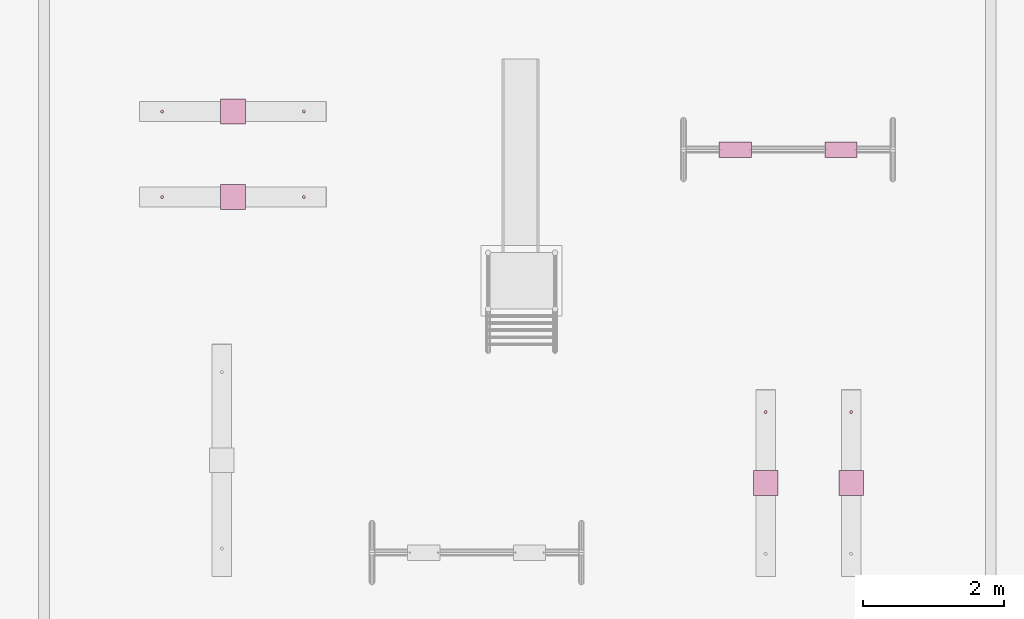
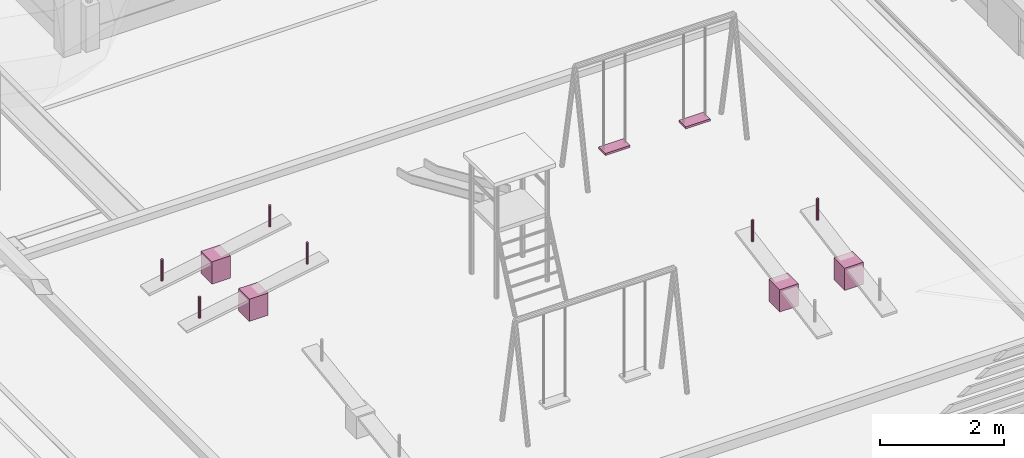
# One storey, part 151 of 177: 12 furnishings.
"""IFC4 building model written with IfcOpenShell, lengths in metres."""

from ifc_helpers import new_model, si_unit, origin, origin_with_axes, place, context, subcontext, project, spatial, triangles, element, save


model = new_model("IFC4")

# Units and contexts
model_context = context("Model", 3, precision=1e-05, world=origin_with_axes())
body_context = subcontext(model_context, "Body", "Model", "MODEL_VIEW")
ifc_project = project(units=[si_unit("LENGTHUNIT", "METRE"), si_unit("AREAUNIT", "SQUARE_METRE"), si_unit("VOLUMEUNIT", "CUBIC_METRE"), si_unit("PLANEANGLEUNIT", "RADIAN")], contexts=[model_context])

# Site, building, storey
site_placement = place(None, origin_with_axes())
site = spatial("IfcSite", under=ifc_project, at=site_placement, Name="Predio Los Mangos - Morales, San Martín", CompositionType="ELEMENT")
building_placement = place(site_placement, origin())
building = spatial("IfcBuilding", under=site, at=building_placement, Name="Hogar de Refugio Temporal", CompositionType="ELEMENT")
storey_placement = place(building_placement, origin())
storey = spatial("IfcBuildingStorey", under=building, at=storey_placement, Name="NIVEL 1 (NPT +0.00)", CompositionType="ELEMENT", Elevation=0.0)

# Furnishings
furnishing_1_placement = place(storey_placement, origin())
element("IfcFurnishingElement", 1, at=furnishing_1_placement, inside=storey, Name="balancin_base", ObjectType="Mobiliario exterior / juegos", context=body_context, shape_type="Tessellation", body=[
    triangles([(38.3022, 80.558, 0.13), (38.6522, 80.558, 0.13), (38.6522, 80.908, 0.13), (38.3022, 80.908, 0.13), (38.3022, 80.558, 0.57), (38.6522, 80.558, 0.57), (38.6522, 80.908, 0.57), (38.3022, 80.908, 0.57)], [[1, 4, 3], [1, 3, 2], [5, 6, 7], [5, 7, 8], [1, 2, 6], [1, 6, 5], [2, 3, 7], [2, 7, 6], [3, 4, 8], [3, 8, 7], [4, 1, 5], [4, 5, 8]]),
])
furnishing_2_placement = place(storey_placement, origin())
element("IfcFurnishingElement", 2, at=furnishing_2_placement, inside=storey, Name="balancin_manija", ObjectType="Mobiliario exterior / juegos", context=body_context, shape_type="Tessellation", body=[
    triangles([(38.4772, 81.718, 0.7524), (38.4772, 81.718, 1.1724), (38.4662, 81.7209, 0.7524), (38.4662, 81.7209, 1.1724), (38.4582, 81.729, 0.7524), (38.4582, 81.729, 1.1724), (38.4552, 81.74, 0.7524), (38.4552, 81.74, 1.1724), (38.4582, 81.751, 0.7524), (38.4582, 81.751, 1.1724), (38.4662, 81.759, 0.7524), (38.4662, 81.759, 1.1724), (38.4772, 81.762, 0.7524), (38.4772, 81.762, 1.1724), (38.4883, 81.759, 0.7524), (38.4883, 81.759, 1.1724), (38.4963, 81.751, 0.7524), (38.4963, 81.751, 1.1724), (38.4992, 81.74, 0.7524), (38.4992, 81.74, 1.1724), (38.4963, 81.729, 0.7524), (38.4963, 81.729, 1.1724), (38.4883, 81.7209, 0.7524), (38.4883, 81.7209, 1.1724)], [[1, 2, 4], [1, 4, 3], [3, 4, 6], [3, 6, 5], [5, 6, 8], [5, 8, 7], [7, 8, 10], [7, 10, 9], [9, 10, 12], [9, 12, 11], [11, 12, 14], [11, 14, 13], [13, 14, 16], [13, 16, 15], [15, 16, 18], [15, 18, 17], [17, 18, 20], [17, 20, 19], [19, 20, 22], [19, 22, 21], [6, 4, 2], [2, 24, 22], [22, 20, 18], [18, 16, 14], [14, 12, 10], [10, 8, 6], [6, 2, 22], [22, 18, 14], [14, 10, 6], [22, 14, 6], [21, 22, 24], [21, 24, 23], [23, 24, 2], [23, 2, 1], [23, 1, 3], [3, 5, 7], [7, 9, 11], [11, 13, 15], [15, 17, 19], [19, 21, 23], [23, 3, 7], [7, 11, 15], [15, 19, 23], [7, 15, 23]]),
])
furnishing_3_placement = place(storey_placement, origin())
element("IfcFurnishingElement", 3, at=furnishing_3_placement, inside=storey, Name="balancin_base", ObjectType="Mobiliario exterior / juegos", context=body_context, shape_type="Tessellation", body=[
    triangles([(39.5168, 80.558, 0.13), (39.8667, 80.558, 0.13), (39.8667, 80.908, 0.13), (39.5168, 80.908, 0.13), (39.5168, 80.558, 0.57), (39.8667, 80.558, 0.57), (39.8667, 80.908, 0.57), (39.5168, 80.908, 0.57)], [[1, 4, 3], [1, 3, 2], [5, 6, 7], [5, 7, 8], [1, 2, 6], [1, 6, 5], [2, 3, 7], [2, 7, 6], [3, 4, 8], [3, 8, 7], [4, 1, 5], [4, 5, 8]]),
])
furnishing_4_placement = place(storey_placement, origin())
element("IfcFurnishingElement", 4, at=furnishing_4_placement, inside=storey, Name="balancin_manija", ObjectType="Mobiliario exterior / juegos", context=body_context, shape_type="Tessellation", body=[
    triangles([(39.6917, 81.718, 0.7524), (39.6917, 81.718, 1.1724), (39.6807, 81.7209, 0.7524), (39.6807, 81.7209, 1.1724), (39.6727, 81.729, 0.7524), (39.6727, 81.729, 1.1724), (39.6698, 81.74, 0.7524), (39.6698, 81.74, 1.1724), (39.6727, 81.751, 0.7524), (39.6727, 81.751, 1.1724), (39.6807, 81.759, 0.7524), (39.6807, 81.759, 1.1724), (39.6917, 81.762, 0.7524), (39.6917, 81.762, 1.1724), (39.7028, 81.759, 0.7524), (39.7028, 81.759, 1.1724), (39.7108, 81.751, 0.7524), (39.7108, 81.751, 1.1724), (39.7137, 81.74, 0.7524), (39.7137, 81.74, 1.1724), (39.7108, 81.729, 0.7524), (39.7108, 81.729, 1.1724), (39.7028, 81.7209, 0.7524), (39.7028, 81.7209, 1.1724)], [[1, 2, 4], [1, 4, 3], [3, 4, 6], [3, 6, 5], [5, 6, 8], [5, 8, 7], [7, 8, 10], [7, 10, 9], [9, 10, 12], [9, 12, 11], [11, 12, 14], [11, 14, 13], [13, 14, 16], [13, 16, 15], [15, 16, 18], [15, 18, 17], [17, 18, 20], [17, 20, 19], [19, 20, 22], [19, 22, 21], [6, 4, 2], [2, 24, 22], [22, 20, 18], [18, 16, 14], [14, 12, 10], [10, 8, 6], [6, 2, 22], [22, 18, 14], [14, 10, 6], [22, 14, 6], [21, 22, 24], [21, 24, 23], [23, 24, 2], [23, 2, 1], [23, 1, 3], [3, 5, 7], [7, 9, 11], [11, 13, 15], [15, 17, 19], [19, 21, 23], [23, 3, 7], [7, 11, 15], [15, 19, 23], [7, 15, 23]]),
])
furnishing_5_placement = place(storey_placement, origin())
element("IfcFurnishingElement", 5, at=furnishing_5_placement, inside=storey, Name="columpio_asiento", ObjectType="Mobiliario exterior / juegos", context=body_context, shape_type="Tessellation", body=[
    triangles([(37.8175, 85.359, 0.48), (38.2775, 85.359, 0.48), (38.2775, 85.579, 0.48), (37.8175, 85.579, 0.48), (37.8175, 85.359, 0.52), (38.2775, 85.359, 0.52), (38.2775, 85.579, 0.52), (37.8175, 85.579, 0.52)], [[1, 4, 3], [1, 3, 2], [5, 6, 7], [5, 7, 8], [1, 2, 6], [1, 6, 5], [2, 3, 7], [2, 7, 6], [3, 4, 8], [3, 8, 7], [4, 1, 5], [4, 5, 8]]),
])
furnishing_6_placement = place(storey_placement, origin())
element("IfcFurnishingElement", 6, at=furnishing_6_placement, inside=storey, Name="columpio_asiento", ObjectType="Mobiliario exterior / juegos", context=body_context, shape_type="Tessellation", body=[
    triangles([(39.3175, 85.359, 0.48), (39.7775, 85.359, 0.48), (39.7775, 85.579, 0.48), (39.3175, 85.579, 0.48), (39.3175, 85.359, 0.52), (39.7775, 85.359, 0.52), (39.7775, 85.579, 0.52), (39.3175, 85.579, 0.52)], [[1, 4, 3], [1, 3, 2], [5, 6, 7], [5, 7, 8], [1, 2, 6], [1, 6, 5], [2, 3, 7], [2, 7, 6], [3, 4, 8], [3, 8, 7], [4, 1, 5], [4, 5, 8]]),
])
furnishing_7_placement = place(storey_placement, origin())
element("IfcFurnishingElement", 7, at=furnishing_7_placement, inside=storey, Name="balancin_base", ObjectType="Mobiliario exterior / juegos", context=body_context, shape_type="Tessellation", body=[
    triangles([(30.735, 84.6202, 0.13), (31.085, 84.6202, 0.13), (31.085, 84.9703, 0.13), (30.735, 84.9703, 0.13), (30.735, 84.6202, 0.57), (31.085, 84.6202, 0.57), (31.085, 84.9703, 0.57), (30.735, 84.9703, 0.57)], [[1, 4, 3], [1, 3, 2], [5, 6, 7], [5, 7, 8], [1, 2, 6], [1, 6, 5], [2, 3, 7], [2, 7, 6], [3, 4, 8], [3, 8, 7], [4, 1, 5], [4, 5, 8]]),
])
furnishing_8_placement = place(storey_placement, origin())
element("IfcFurnishingElement", 8, at=furnishing_8_placement, inside=storey, Name="balancin_manija", ObjectType="Mobiliario exterior / juegos", context=body_context, shape_type="Tessellation", body=[
    triangles([(29.903, 84.7732, 0.3876), (29.903, 84.7732, 0.8076), (29.892, 84.7762, 0.3876), (29.892, 84.7762, 0.8076), (29.8839, 84.7842, 0.3876), (29.8839, 84.7842, 0.8076), (29.881, 84.7952, 0.3876), (29.881, 84.7952, 0.8076), (29.8839, 84.8063, 0.3876), (29.8839, 84.8063, 0.8076), (29.892, 84.8143, 0.3876), (29.892, 84.8143, 0.8076), (29.903, 84.8173, 0.3876), (29.903, 84.8173, 0.8076), (29.914, 84.8143, 0.3876), (29.914, 84.8143, 0.8076), (29.9221, 84.8063, 0.3876), (29.9221, 84.8063, 0.8076), (29.925, 84.7952, 0.3876), (29.925, 84.7952, 0.8076), (29.9221, 84.7842, 0.3876), (29.9221, 84.7842, 0.8076), (29.914, 84.7762, 0.3876), (29.914, 84.7762, 0.8076)], [[1, 2, 4], [1, 4, 3], [3, 4, 6], [3, 6, 5], [5, 6, 8], [5, 8, 7], [7, 8, 10], [7, 10, 9], [9, 10, 12], [9, 12, 11], [11, 12, 14], [11, 14, 13], [13, 14, 16], [13, 16, 15], [15, 16, 18], [15, 18, 17], [17, 18, 20], [17, 20, 19], [19, 20, 22], [19, 22, 21], [6, 4, 2], [2, 24, 22], [22, 20, 18], [18, 16, 14], [14, 12, 10], [10, 8, 6], [6, 2, 22], [22, 18, 14], [14, 10, 6], [22, 14, 6], [21, 22, 24], [21, 24, 23], [23, 24, 2], [23, 2, 1], [23, 1, 3], [3, 5, 7], [7, 9, 11], [11, 13, 15], [15, 17, 19], [19, 21, 23], [23, 3, 7], [7, 11, 15], [15, 19, 23], [7, 15, 23]]),
])
furnishing_9_placement = place(storey_placement, origin())
element("IfcFurnishingElement", 9, at=furnishing_9_placement, inside=storey, Name="balancin_manija", ObjectType="Mobiliario exterior / juegos", context=body_context, shape_type="Tessellation", body=[
    triangles([(31.917, 84.7732, 0.7524), (31.917, 84.7732, 1.1724), (31.906, 84.7762, 0.7524), (31.906, 84.7762, 1.1724), (31.8979, 84.7842, 0.7524), (31.8979, 84.7842, 1.1724), (31.895, 84.7952, 0.7524), (31.895, 84.7952, 1.1724), (31.8979, 84.8063, 0.7524), (31.8979, 84.8063, 1.1724), (31.906, 84.8143, 0.7524), (31.906, 84.8143, 1.1724), (31.917, 84.8173, 0.7524), (31.917, 84.8173, 1.1724), (31.928, 84.8143, 0.7524), (31.928, 84.8143, 1.1724), (31.9361, 84.8063, 0.7524), (31.9361, 84.8063, 1.1724), (31.939, 84.7952, 0.7524), (31.939, 84.7952, 1.1724), (31.9361, 84.7842, 0.7524), (31.9361, 84.7842, 1.1724), (31.928, 84.7762, 0.7524), (31.928, 84.7762, 1.1724)], [[1, 2, 4], [1, 4, 3], [3, 4, 6], [3, 6, 5], [5, 6, 8], [5, 8, 7], [7, 8, 10], [7, 10, 9], [9, 10, 12], [9, 12, 11], [11, 12, 14], [11, 14, 13], [13, 14, 16], [13, 16, 15], [15, 16, 18], [15, 18, 17], [17, 18, 20], [17, 20, 19], [19, 20, 22], [19, 22, 21], [6, 4, 2], [2, 24, 22], [22, 20, 18], [18, 16, 14], [14, 12, 10], [10, 8, 6], [6, 2, 22], [22, 18, 14], [14, 10, 6], [22, 14, 6], [21, 22, 24], [21, 24, 23], [23, 24, 2], [23, 2, 1], [23, 1, 3], [3, 5, 7], [7, 9, 11], [11, 13, 15], [15, 17, 19], [19, 21, 23], [23, 3, 7], [7, 11, 15], [15, 19, 23], [7, 15, 23]]),
])
furnishing_10_placement = place(storey_placement, origin())
element("IfcFurnishingElement", 10, at=furnishing_10_placement, inside=storey, Name="balancin_base", ObjectType="Mobiliario exterior / juegos", context=body_context, shape_type="Tessellation", body=[
    triangles([(30.735, 85.8347, 0.13), (31.085, 85.8347, 0.13), (31.085, 86.1848, 0.13), (30.735, 86.1848, 0.13), (30.735, 85.8347, 0.57), (31.085, 85.8347, 0.57), (31.085, 86.1848, 0.57), (30.735, 86.1848, 0.57)], [[1, 4, 3], [1, 3, 2], [5, 6, 7], [5, 7, 8], [1, 2, 6], [1, 6, 5], [2, 3, 7], [2, 7, 6], [3, 4, 8], [3, 8, 7], [4, 1, 5], [4, 5, 8]]),
])
furnishing_11_placement = place(storey_placement, origin())
element("IfcFurnishingElement", 11, at=furnishing_11_placement, inside=storey, Name="balancin_manija", ObjectType="Mobiliario exterior / juegos", context=body_context, shape_type="Tessellation", body=[
    triangles([(29.903, 85.9877, 0.3876), (29.903, 85.9877, 0.8076), (29.892, 85.9907, 0.3876), (29.892, 85.9907, 0.8076), (29.8839, 85.9987, 0.3876), (29.8839, 85.9987, 0.8076), (29.881, 86.0098, 0.3876), (29.881, 86.0098, 0.8076), (29.8839, 86.0208, 0.3876), (29.8839, 86.0208, 0.8076), (29.892, 86.0288, 0.3876), (29.892, 86.0288, 0.8076), (29.903, 86.0318, 0.3876), (29.903, 86.0318, 0.8076), (29.914, 86.0288, 0.3876), (29.914, 86.0288, 0.8076), (29.9221, 86.0208, 0.3876), (29.9221, 86.0208, 0.8076), (29.925, 86.0098, 0.3876), (29.925, 86.0098, 0.8076), (29.9221, 85.9987, 0.3876), (29.9221, 85.9987, 0.8076), (29.914, 85.9907, 0.3876), (29.914, 85.9907, 0.8076)], [[1, 2, 4], [1, 4, 3], [3, 4, 6], [3, 6, 5], [5, 6, 8], [5, 8, 7], [7, 8, 10], [7, 10, 9], [9, 10, 12], [9, 12, 11], [11, 12, 14], [11, 14, 13], [13, 14, 16], [13, 16, 15], [15, 16, 18], [15, 18, 17], [17, 18, 20], [17, 20, 19], [19, 20, 22], [19, 22, 21], [6, 4, 2], [2, 24, 22], [22, 20, 18], [18, 16, 14], [14, 12, 10], [10, 8, 6], [6, 2, 22], [22, 18, 14], [14, 10, 6], [22, 14, 6], [21, 22, 24], [21, 24, 23], [23, 24, 2], [23, 2, 1], [23, 1, 3], [3, 5, 7], [7, 9, 11], [11, 13, 15], [15, 17, 19], [19, 21, 23], [23, 3, 7], [7, 11, 15], [15, 19, 23], [7, 15, 23]]),
])
furnishing_12_placement = place(storey_placement, origin())
element("IfcFurnishingElement", 12, at=furnishing_12_placement, inside=storey, Name="balancin_manija", ObjectType="Mobiliario exterior / juegos", context=body_context, shape_type="Tessellation", body=[
    triangles([(31.917, 85.9877, 0.7524), (31.917, 85.9877, 1.1724), (31.906, 85.9907, 0.7524), (31.906, 85.9907, 1.1724), (31.8979, 85.9987, 0.7524), (31.8979, 85.9987, 1.1724), (31.895, 86.0098, 0.7524), (31.895, 86.0098, 1.1724), (31.8979, 86.0208, 0.7524), (31.8979, 86.0208, 1.1724), (31.906, 86.0288, 0.7524), (31.906, 86.0288, 1.1724), (31.917, 86.0318, 0.7524), (31.917, 86.0318, 1.1724), (31.928, 86.0288, 0.7524), (31.928, 86.0288, 1.1724), (31.9361, 86.0208, 0.7524), (31.9361, 86.0208, 1.1724), (31.939, 86.0098, 0.7524), (31.939, 86.0098, 1.1724), (31.9361, 85.9987, 0.7524), (31.9361, 85.9987, 1.1724), (31.928, 85.9907, 0.7524), (31.928, 85.9907, 1.1724)], [[1, 2, 4], [1, 4, 3], [3, 4, 6], [3, 6, 5], [5, 6, 8], [5, 8, 7], [7, 8, 10], [7, 10, 9], [9, 10, 12], [9, 12, 11], [11, 12, 14], [11, 14, 13], [13, 14, 16], [13, 16, 15], [15, 16, 18], [15, 18, 17], [17, 18, 20], [17, 20, 19], [19, 20, 22], [19, 22, 21], [6, 4, 2], [2, 24, 22], [22, 20, 18], [18, 16, 14], [14, 12, 10], [10, 8, 6], [6, 2, 22], [22, 18, 14], [14, 10, 6], [22, 14, 6], [21, 22, 24], [21, 24, 23], [23, 24, 2], [23, 2, 1], [23, 1, 3], [3, 5, 7], [7, 9, 11], [11, 13, 15], [15, 17, 19], [19, 21, 23], [23, 3, 7], [7, 11, 15], [15, 19, 23], [7, 15, 23]]),
])

save(model, "model.ifc")
